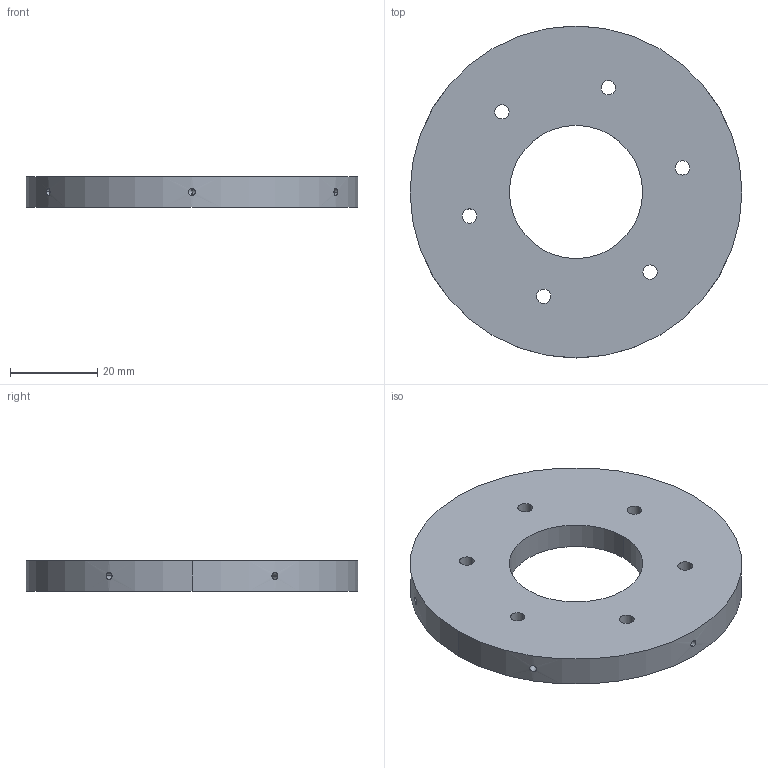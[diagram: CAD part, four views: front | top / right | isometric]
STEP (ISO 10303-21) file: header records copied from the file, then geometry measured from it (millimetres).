
FILE_DESCRIPTION (( 'STEP AP214' ), '1' );
FILE_NAME ('傷醱裔啣.STEP', '2026-04-22T06:34:51', ( '' ), ( '' ), 'SwSTEP 2.0', 'SolidWorks 2024', '' );
FILE_SCHEMA (( 'AUTOMOTIVE_DESIGN' ));
Length unit declared in the file: millimetre
Products named in the file (1): 端面盖板
Bounding box: 76 x 76 x 7 mm (x, y, z)
Volume: 23174.7 mm3; surface area: 10446.8 mm2
Topology: 1 solids, 1 shells, 45 faces, 114 edges, 66 vertices
Faces by surface type: cylinder 30, cone 12, plane 3
Entity records: 1471 total; most frequent: CARTESIAN_POINT 382, DIRECTION 230, ORIENTED_EDGE 204, EDGE_CURVE 102, AXIS2_PLACEMENT_3D 94, EDGE_LOOP 66, VERTEX_POINT 66, CIRCLE 48
